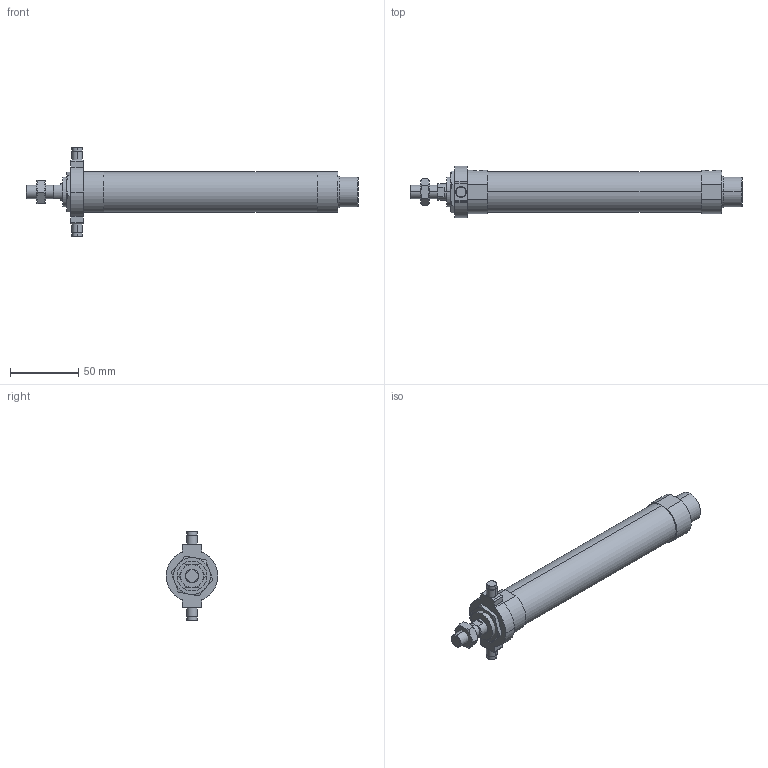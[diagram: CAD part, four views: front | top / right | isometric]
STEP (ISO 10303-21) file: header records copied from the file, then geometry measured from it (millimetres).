
FILE_DESCRIPTION (( 'STEP AP203' ), '1' );
FILE_NAME ('J#2-25-125-T.STEP', '2016-03-08T07:26:10', ( '' ), ( '' ), 'SwSTEP 2.0', 'SolidWorks 2014', '' );
FILE_SCHEMA (( 'CONFIG_CONTROL_DESIGN' ));
Length unit declared in the file: millimetre
Products named in the file (5): J#2-25-125; J#2-25-125-T; J#2-25-T
Assembly tree (4 placements, depth 2):
  J#2-25-125-T
    J#2-25-125
    (unnamed)
    J#2-25-T
    (unnamed)
Bounding box: 244 x 38 x 66 mm (x, y, z)
Volume: 156412.5 mm3; surface area: 29730.5 mm2
Topology: 4 solids, 4 shells, 136 faces, 307 edges, 184 vertices
Faces by surface type: cylinder 47, plane 47, torus 24, cone 18
Entity records: 4590 total; most frequent: CARTESIAN_POINT 1054, DIRECTION 661, ORIENTED_EDGE 606, EDGE_CURVE 303, AXIS2_PLACEMENT_3D 271, VERTEX_POINT 184, EDGE_LOOP 151, ADVANCED_FACE 136
